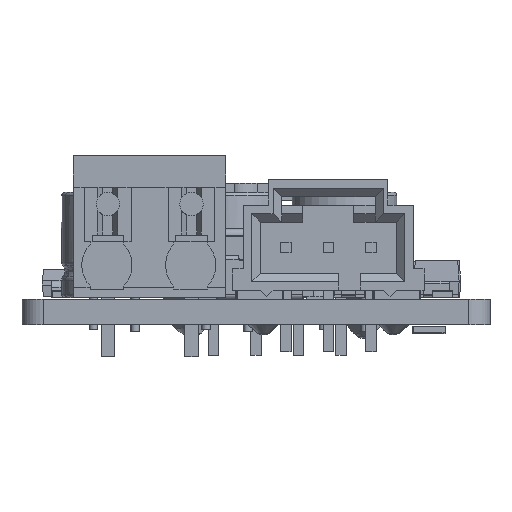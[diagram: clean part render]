
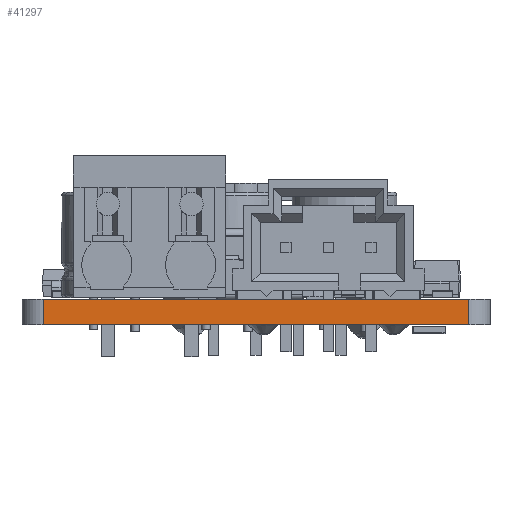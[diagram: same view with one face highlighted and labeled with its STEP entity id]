
A CAD part, left-side view. The second image highlights one B-rep face of the part: STEP entity #41297.
In plain terms, the highlighted planar face has unit normal (-1, 0, 0).
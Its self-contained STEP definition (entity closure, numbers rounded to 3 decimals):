
#40594 = VERTEX_POINT('',#40595);
#40595 = CARTESIAN_POINT('',(161.519,-97.028,0.));
#40602 = EDGE_CURVE('',#40603,#40594,#40605,.T.);
#40603 = VERTEX_POINT('',#40604);
#40604 = CARTESIAN_POINT('',(161.519,-122.428,0.));
#40605 = LINE('',#40606,#40607);
#40606 = CARTESIAN_POINT('',(161.519,-122.428,0.));
#40607 = VECTOR('',#40608,1.);
#40608 = DIRECTION('',(0.,1.,0.));
#40932 = VERTEX_POINT('',#40933);
#40933 = CARTESIAN_POINT('',(161.519,-97.028,1.51));
#40940 = EDGE_CURVE('',#40941,#40932,#40943,.T.);
#40941 = VERTEX_POINT('',#40942);
#40942 = CARTESIAN_POINT('',(161.519,-122.428,1.51));
#40943 = LINE('',#40944,#40945);
#40944 = CARTESIAN_POINT('',(161.519,-122.428,1.51));
#40945 = VECTOR('',#40946,1.);
#40946 = DIRECTION('',(0.,1.,0.));
#41267 = EDGE_CURVE('',#40594,#40932,#41268,.T.);
#41268 = LINE('',#41269,#41270);
#41269 = CARTESIAN_POINT('',(161.519,-97.028,0.));
#41270 = VECTOR('',#41271,1.);
#41271 = DIRECTION('',(0.,0.,1.));
#41297 = ADVANCED_FACE('',(#41298),#41309,.T.);
#41298 = FACE_BOUND('',#41299,.T.);
#41299 = EDGE_LOOP('',(#41300,#41306,#41307,#41308));
#41300 = ORIENTED_EDGE('',*,*,#41301,.T.);
#41301 = EDGE_CURVE('',#40603,#40941,#41302,.T.);
#41302 = LINE('',#41303,#41304);
#41303 = CARTESIAN_POINT('',(161.519,-122.428,0.));
#41304 = VECTOR('',#41305,1.);
#41305 = DIRECTION('',(0.,0.,1.));
#41306 = ORIENTED_EDGE('',*,*,#40940,.T.);
#41307 = ORIENTED_EDGE('',*,*,#41267,.F.);
#41308 = ORIENTED_EDGE('',*,*,#40602,.F.);
#41309 = PLANE('',#41310);
#41310 = AXIS2_PLACEMENT_3D('',#41311,#41312,#41313);
#41311 = CARTESIAN_POINT('',(161.519,-122.428,0.));
#41312 = DIRECTION('',(-1.,0.,0.));
#41313 = DIRECTION('',(0.,1.,0.));
